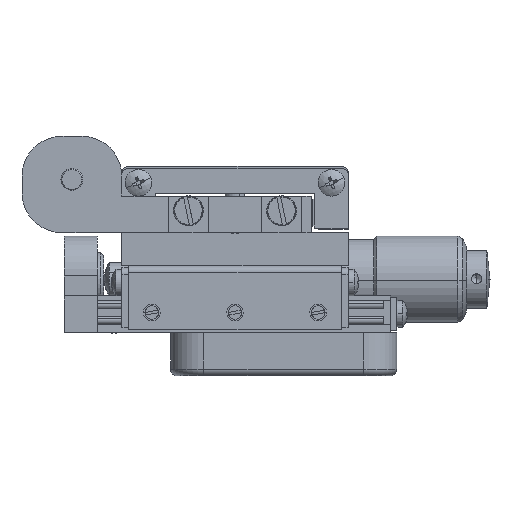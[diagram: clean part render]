
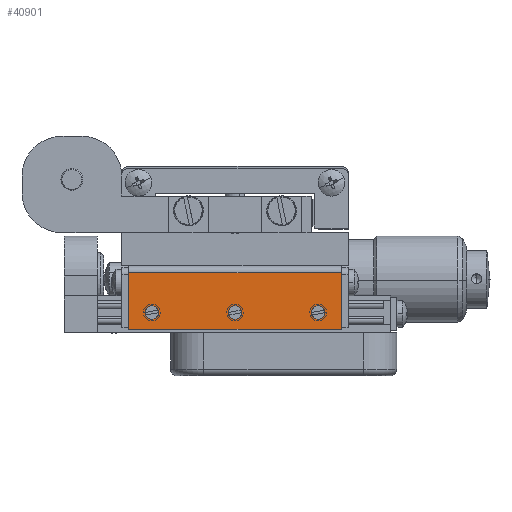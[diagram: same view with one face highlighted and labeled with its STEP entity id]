
A CAD part, left-side view. The second image highlights one B-rep face of the part: STEP entity #40901.
In plain terms, the highlighted planar face has unit normal (-1, 0, 0).
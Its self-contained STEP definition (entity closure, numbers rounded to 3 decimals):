
#1446 = CARTESIAN_POINT ( 'NONE',  ( 6.129, 0.112, 9.5 ) ) ;
#1473 = VERTEX_POINT ( 'NONE', #6103 ) ;
#1941 = CARTESIAN_POINT ( 'NONE',  ( 6.129, -25.913, 9.5 ) ) ;
#3050 = VERTEX_POINT ( 'NONE', #65288 ) ;
#5042 = CARTESIAN_POINT ( 'NONE',  ( 6.129, -29.413, 7. ) ) ;
#5178 = DIRECTION ( 'NONE',  ( 0., 0., -1. ) ) ;
#6103 = CARTESIAN_POINT ( 'NONE',  ( 6.129, -29.413, 7. ) ) ;
#7676 = EDGE_LOOP ( 'NONE', ( #60900, #29733 ) ) ;
#7761 = VERTEX_POINT ( 'NONE', #61005 ) ;
#7817 = VECTOR ( 'NONE', #12118, 1000. ) ;
#7922 = ORIENTED_EDGE ( 'NONE', *, *, #25450, .F. ) ;
#8022 = ORIENTED_EDGE ( 'NONE', *, *, #29405, .F. ) ;
#9834 = ORIENTED_EDGE ( 'NONE', *, *, #20611, .F. ) ;
#10106 = DIRECTION ( 'NONE',  ( -1., 0., 0. ) ) ;
#10350 = CARTESIAN_POINT ( 'NONE',  ( 6.129, -13.413, 9.5 ) ) ;
#11710 = ORIENTED_EDGE ( 'NONE', *, *, #27830, .F. ) ;
#12118 = DIRECTION ( 'NONE',  ( 0., 0., -1. ) ) ;
#12424 = DIRECTION ( 'NONE',  ( 0., 1., 0. ) ) ;
#12604 = ORIENTED_EDGE ( 'NONE', *, *, #51670, .F. ) ;
#14661 = VERTEX_POINT ( 'NONE', #44861 ) ;
#15425 = EDGE_CURVE ( 'NONE', #14661, #61076, #23861, .T. ) ;
#16157 = EDGE_LOOP ( 'NONE', ( #11710, #8022 ) ) ;
#16493 = VERTEX_POINT ( 'NONE', #1446 ) ;
#17417 = CARTESIAN_POINT ( 'NONE',  ( 6.129, -29.413, 16.5 ) ) ;
#17563 = DIRECTION ( 'NONE',  ( -1., 0., 0. ) ) ;
#18655 = FACE_OUTER_BOUND ( 'NONE', #37933, .T. ) ;
#20611 = EDGE_CURVE ( 'NONE', #36728, #30679, #32581, .T. ) ;
#21080 = AXIS2_PLACEMENT_3D ( 'NONE', #42470, #68858, #47950 ) ;
#21144 = CARTESIAN_POINT ( 'NONE',  ( 6.129, 2.587, 16.5 ) ) ;
#21246 = EDGE_CURVE ( 'NONE', #7761, #1473, #63105, .T. ) ;
#22251 = CARTESIAN_POINT ( 'NONE',  ( 6.129, -25.913, 9.5 ) ) ;
#22345 = VECTOR ( 'NONE', #48552, 1000. ) ;
#22832 = AXIS2_PLACEMENT_3D ( 'NONE', #65025, #49337, #43872 ) ;
#23033 = DIRECTION ( 'NONE',  ( 0., -1., 0. ) ) ;
#23861 = CIRCLE ( 'NONE', #63607, 1.025 ) ;
#25450 = EDGE_CURVE ( 'NONE', #30679, #36728, #36920, .T. ) ;
#27429 = LINE ( 'NONE', #34231, #7817 ) ;
#27809 = EDGE_CURVE ( 'NONE', #61076, #14661, #41747, .T. ) ;
#27830 = EDGE_CURVE ( 'NONE', #3050, #16493, #29013, .T. ) ;
#29013 = CIRCLE ( 'NONE', #22832, 1.025 ) ;
#29092 = DIRECTION ( 'NONE',  ( 0., -1., 0. ) ) ;
#29405 = EDGE_CURVE ( 'NONE', #16493, #3050, #42383, .T. ) ;
#29707 = FACE_BOUND ( 'NONE', #7676, .T. ) ;
#29733 = ORIENTED_EDGE ( 'NONE', *, *, #27809, .F. ) ;
#30310 = EDGE_CURVE ( 'NONE', #65639, #46707, #57576, .T. ) ;
#30679 = VERTEX_POINT ( 'NONE', #36865 ) ;
#31758 = DIRECTION ( 'NONE',  ( 0., -1., 0. ) ) ;
#32371 = CARTESIAN_POINT ( 'NONE',  ( 6.129, -24.888, 9.5 ) ) ;
#32581 = CIRCLE ( 'NONE', #54744, 1.025 ) ;
#34231 = CARTESIAN_POINT ( 'NONE',  ( 6.129, -29.413, 16.5 ) ) ;
#36728 = VERTEX_POINT ( 'NONE', #69643 ) ;
#36865 = CARTESIAN_POINT ( 'NONE',  ( 6.129, -14.438, 9.5 ) ) ;
#36920 = CIRCLE ( 'NONE', #46351, 1.025 ) ;
#37933 = EDGE_LOOP ( 'NONE', ( #12604, #70057, #44610, #48668 ) ) ;
#38895 = VECTOR ( 'NONE', #5178, 1000. ) ;
#40578 = LINE ( 'NONE', #21144, #38895 ) ;
#40901 = ADVANCED_FACE ( 'NONE', ( #29707, #67138, #50166, #18655 ), #49983, .F. ) ;
#41038 = AXIS2_PLACEMENT_3D ( 'NONE', #22251, #48875, #43185 ) ;
#41747 = CIRCLE ( 'NONE', #41038, 1.025 ) ;
#42383 = CIRCLE ( 'NONE', #21080, 1.025 ) ;
#42470 = CARTESIAN_POINT ( 'NONE',  ( 6.129, -0.913, 9.5 ) ) ;
#43185 = DIRECTION ( 'NONE',  ( 0., -1., 0. ) ) ;
#43872 = DIRECTION ( 'NONE',  ( 0., -1., 0. ) ) ;
#44610 = ORIENTED_EDGE ( 'NONE', *, *, #56233, .T. ) ;
#44861 = CARTESIAN_POINT ( 'NONE',  ( 6.129, -26.938, 9.5 ) ) ;
#46351 = AXIS2_PLACEMENT_3D ( 'NONE', #50131, #17563, #23033 ) ;
#46707 = VERTEX_POINT ( 'NONE', #56202 ) ;
#47635 = AXIS2_PLACEMENT_3D ( 'NONE', #17417, #60889, #66360 ) ;
#47950 = DIRECTION ( 'NONE',  ( 0., -1., 0. ) ) ;
#48552 = DIRECTION ( 'NONE',  ( 0., -1., 0. ) ) ;
#48668 = ORIENTED_EDGE ( 'NONE', *, *, #21246, .T. ) ;
#48875 = DIRECTION ( 'NONE',  ( -1., 0., 0. ) ) ;
#49337 = DIRECTION ( 'NONE',  ( -1., 0., 0. ) ) ;
#49983 = PLANE ( 'NONE',  #47635 ) ;
#50131 = CARTESIAN_POINT ( 'NONE',  ( 6.129, -13.413, 9.5 ) ) ;
#50166 = FACE_BOUND ( 'NONE', #60556, .T. ) ;
#51670 = EDGE_CURVE ( 'NONE', #65639, #1473, #27429, .T. ) ;
#54744 = AXIS2_PLACEMENT_3D ( 'NONE', #10350, #10106, #31758 ) ;
#56202 = CARTESIAN_POINT ( 'NONE',  ( 6.129, 2.587, 15.5 ) ) ;
#56233 = EDGE_CURVE ( 'NONE', #46707, #7761, #40578, .T. ) ;
#57576 = LINE ( 'NONE', #61140, #64393 ) ;
#60556 = EDGE_LOOP ( 'NONE', ( #7922, #9834 ) ) ;
#60889 = DIRECTION ( 'NONE',  ( 1., 0., 0. ) ) ;
#60900 = ORIENTED_EDGE ( 'NONE', *, *, #15425, .F. ) ;
#61005 = CARTESIAN_POINT ( 'NONE',  ( 6.129, 2.587, 7. ) ) ;
#61076 = VERTEX_POINT ( 'NONE', #32371 ) ;
#61140 = CARTESIAN_POINT ( 'NONE',  ( 6.129, 2.587, 15.5 ) ) ;
#61623 = DIRECTION ( 'NONE',  ( -1., 0., 0. ) ) ;
#63105 = LINE ( 'NONE', #5042, #22345 ) ;
#63607 = AXIS2_PLACEMENT_3D ( 'NONE', #1941, #61623, #29092 ) ;
#63752 = CARTESIAN_POINT ( 'NONE',  ( 6.129, -29.413, 15.5 ) ) ;
#64393 = VECTOR ( 'NONE', #12424, 1000. ) ;
#65025 = CARTESIAN_POINT ( 'NONE',  ( 6.129, -0.913, 9.5 ) ) ;
#65288 = CARTESIAN_POINT ( 'NONE',  ( 6.129, -1.938, 9.5 ) ) ;
#65639 = VERTEX_POINT ( 'NONE', #63752 ) ;
#66360 = DIRECTION ( 'NONE',  ( 0., 1., 0. ) ) ;
#67138 = FACE_BOUND ( 'NONE', #16157, .T. ) ;
#68858 = DIRECTION ( 'NONE',  ( -1., 0., 0. ) ) ;
#69643 = CARTESIAN_POINT ( 'NONE',  ( 6.129, -12.388, 9.5 ) ) ;
#70057 = ORIENTED_EDGE ( 'NONE', *, *, #30310, .T. ) ;
